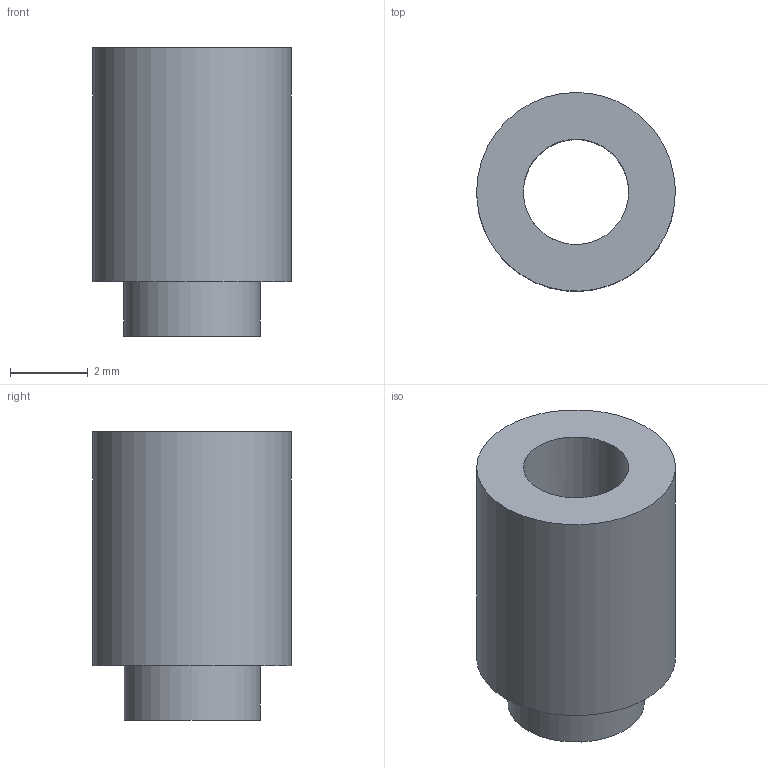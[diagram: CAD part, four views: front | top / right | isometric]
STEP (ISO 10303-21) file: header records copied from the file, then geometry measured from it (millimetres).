
FILE_DESCRIPTION(('FreeCAD Model'),'2;1');
FILE_NAME('Open CASCADE Shape Model','2026-03-20T17:23:18',('Author'),( ''),'Open CASCADE STEP processor 7.8','FreeCAD','Unknown');
FILE_SCHEMA(('AP242_MANAGED_MODEL_BASED_3D_ENGINEERING_MIM_LF. {1 0 10303 442 1 1 4 }'));
Length unit declared in the file: millimetre
Products named in the file (1): 1_transformed
Bounding box: 5.1 x 5.1 x 7.4 mm (x, y, z)
Volume: 94.5 mm3; surface area: 204.2 mm2
Topology: 1 solids, 1 shells, 6 faces, 10 edges, 7 vertices
Faces by surface type: bspline 6
Entity records: 209 total; most frequent: CARTESIAN_POINT 113, ORIENTED_EDGE 20, EDGE_CURVE 10, FACE_BOUND 9, EDGE_LOOP 9, VERTEX_POINT 7, ADVANCED_FACE 6, B_SPLINE_SURFACE_WITH_KNOTS 3
